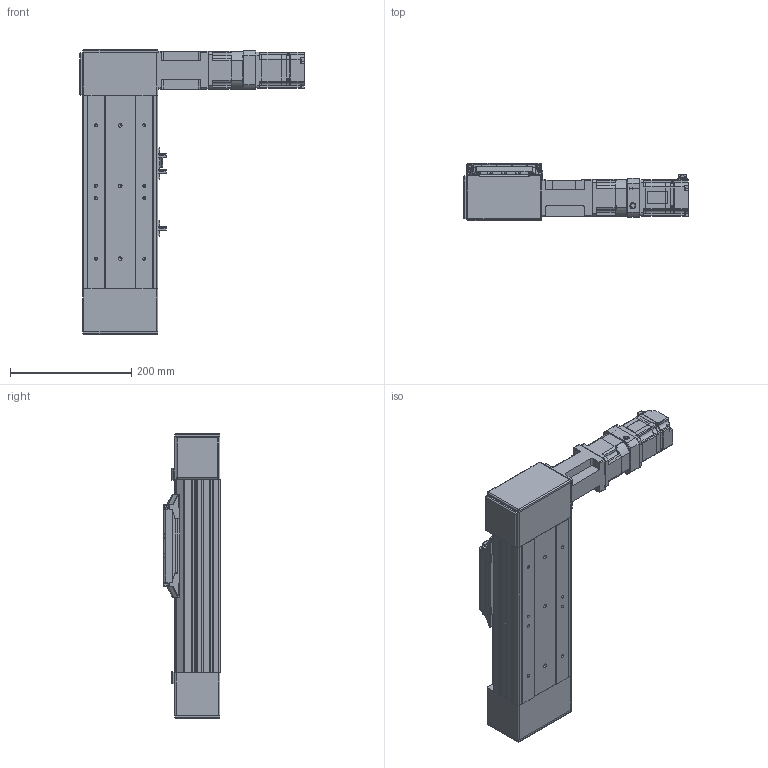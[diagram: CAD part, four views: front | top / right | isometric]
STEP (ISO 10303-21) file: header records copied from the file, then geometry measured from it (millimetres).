
FILE_DESCRIPTION (( 'STEP AP203' ), '1' );
FILE_NAME ('PCB120SRN-0000-ST100-20NR00-N-I3R.STEP', '2015-10-21T00:47:43', ( '' ), ( '' ), 'SwSTEP 2.0', 'SolidWorks 2012', '' );
FILE_SCHEMA (( 'CONFIG_CONTROL_DESIGN' ));
Products named in the file (14): sgmjv_02a_a21; PCB120SRN-0000-ST100-20NR00-N-I3R; PCB120-Motor Bracket; EE_SX672; jc32c; PGX62-H-1_3; PCB120-Carrier Assy; PCB120-Carrier END COVER; PCB120-Sensor Dog; PCB120-Carrier UPPER COVER; PCB120-BASE 100ST; PCB120-Carrier; PCB120-Idler Pulley Block; PCB120-Drive Pulley Block S
Assembly tree (16 placements, depth 3):
  PCB120SRN-0000-ST100-20NR00-N-I3R
    PCB120-BASE 100ST
    PCB120-Drive Pulley Block S
    PCB120-Idler Pulley Block
    PCB120-Carrier Assy
      PCB120-Carrier
      PCB120-Carrier UPPER COVER
      PCB120-Carrier END COVER  x2
      PCB120-Sensor Dog
    EE_SX672  x3
    PCB120-Motor Bracket
    PGX62-H-1_3
    jc32c
    sgmjv_02a_a21
Bounding box: 371.1 x 94.26 x 470 mm (x, y, z)
Volume: 4739370.8 mm3; surface area: 722725.9 mm2
Topology: 38 solids, 39 shells, 3004 faces, 7896 edges, 5023 vertices
Faces by surface type: plane 1670, cylinder 960, cone 212, bspline 130, sphere 32
Entity records: 86153 total; most frequent: CARTESIAN_POINT 20883, ORIENTED_EDGE 13408, DIRECTION 13072, EDGE_CURVE 6706, LINE 4418, VECTOR 4418, VERTEX_POINT 4329, AXIS2_PLACEMENT_3D 4327
